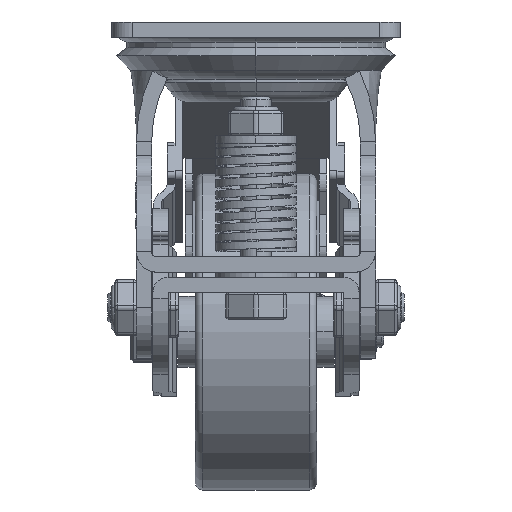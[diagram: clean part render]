
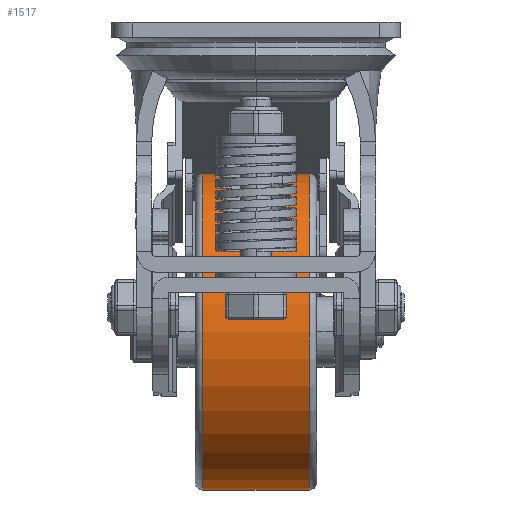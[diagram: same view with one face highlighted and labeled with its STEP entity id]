
A CAD part, left-side view. The second image highlights one B-rep face of the part: STEP entity #1517.
In plain terms, the highlighted cylindrical face has radius 62.5 mm (diameter 125 mm), a full revolution.
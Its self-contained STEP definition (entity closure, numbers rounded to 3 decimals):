
#122=CYLINDRICAL_SURFACE('',#15694,62.5);
#1517=ADVANCED_FACE('',(#2981,#2982),#122,.T.);
#2981=FACE_BOUND('',#3241,.T.);
#2982=FACE_BOUND('',#3242,.T.);
#3241=EDGE_LOOP('',(#5795));
#3242=EDGE_LOOP('',(#5796));
#4238=CIRCLE('',#15692,62.5);
#4239=CIRCLE('',#15693,62.5);
#5795=ORIENTED_EDGE('',*,*,#11419,.T.);
#5796=ORIENTED_EDGE('',*,*,#11420,.T.);
#9821=VERTEX_POINT('',#23422);
#9822=VERTEX_POINT('',#23424);
#11419=EDGE_CURVE('',#9821,#9821,#4238,.T.);
#11420=EDGE_CURVE('',#9822,#9822,#4239,.T.);
#15692=AXIS2_PLACEMENT_3D('',#23421,#18011,#18012);
#15693=AXIS2_PLACEMENT_3D('',#23423,#18013,#18014);
#15694=AXIS2_PLACEMENT_3D('',#23425,#18015,#18016);
#18011=DIRECTION('',(0.,1.,0.));
#18012=DIRECTION('',(0.,0.,1.));
#18013=DIRECTION('',(0.,-1.,0.));
#18014=DIRECTION('',(0.,0.,1.));
#18015=DIRECTION('',(0.,1.,0.));
#18016=DIRECTION('',(1.,0.,0.));
#23421=CARTESIAN_POINT('',(50.,-21.,-122.5));
#23422=CARTESIAN_POINT('',(50.,-21.,-60.));
#23423=CARTESIAN_POINT('',(50.,21.,-122.5));
#23424=CARTESIAN_POINT('',(50.,21.,-60.));
#23425=CARTESIAN_POINT('',(50.,-34.1,-122.5));
